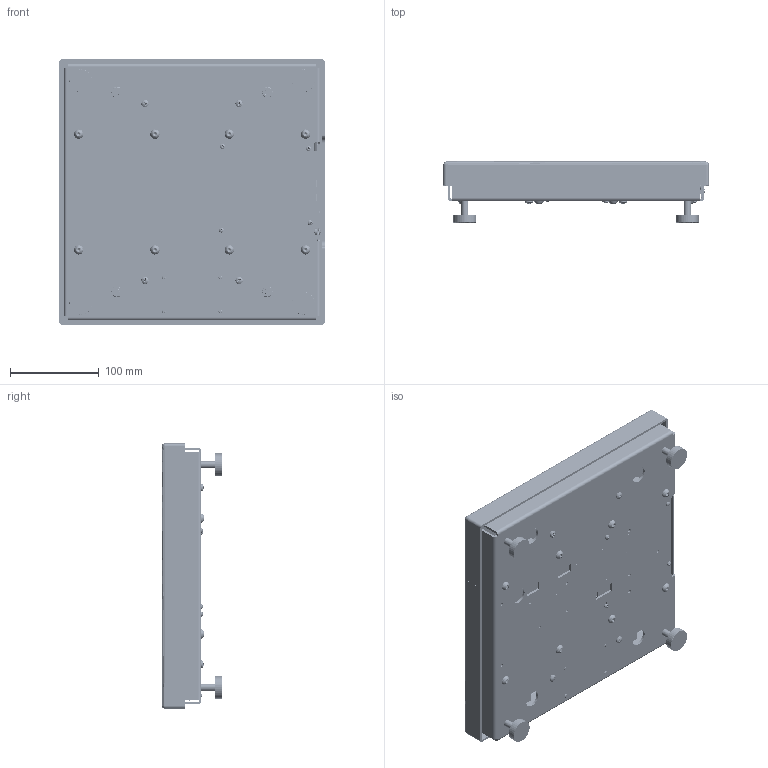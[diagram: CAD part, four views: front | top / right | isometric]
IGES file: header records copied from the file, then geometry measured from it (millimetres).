
Start section: SolidWorks IGES file using analytic representation for surfaces
Global section: file name: C:\0_Work\SolidWorks\~0_E-Scales\12x12\E-SCALE-6610-1212-130.IGS; native system: SolidWorks 2017; preprocessor: SolidWorks 2017; author: vach01; date: 190829.151924; units: inch
Bounding box: 298.32 x 68.17 x 298.19 mm (x, y, z)
Surface area: 662819 mm2 (no closed solid volume)
Topology: 0 solids, 0 shells, 18916 faces, 148473 edges, 148350 vertices
Faces by surface type: bspline 15259, revolution 3657
